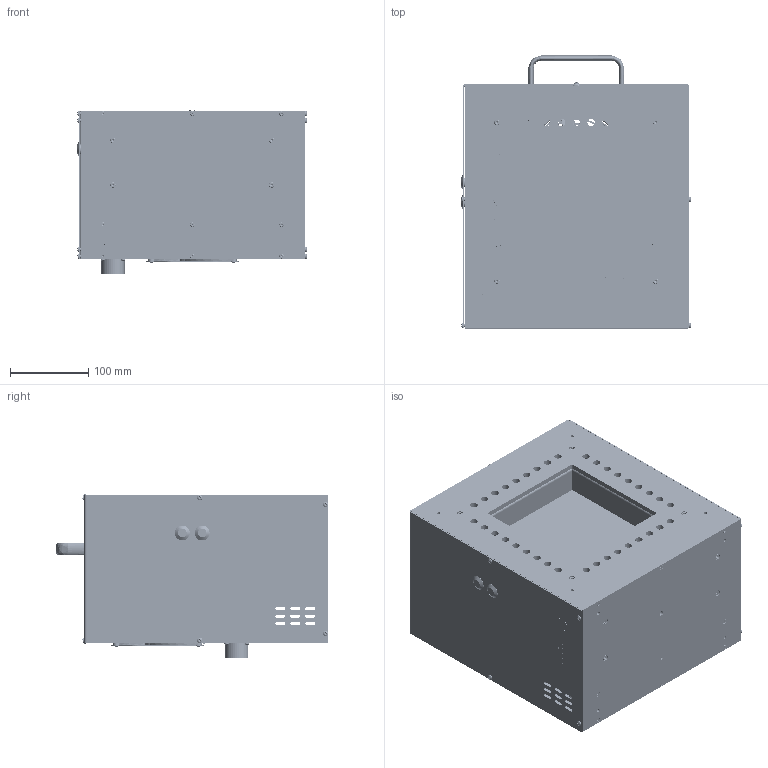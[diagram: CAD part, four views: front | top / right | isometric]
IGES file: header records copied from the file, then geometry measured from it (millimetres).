
Start section: SolidWorks IGES file using analytic representation for surfaces
Global section: file name: X:\ECO_SUB\052324\319-001-329\319-001-329_NC.IGS; native system: SolidWorks 2013; preprocessor: SolidWorks 2013; author: doug; date: 140925.110056; units: inch
Bounding box: 295.06 x 349.42 x 211.1 mm (x, y, z)
Surface area: 1014265 mm2 (no closed solid volume)
Topology: 0 solids, 0 shells, 3745 faces, 44262 edges, 44222 vertices
Faces by surface type: bspline 2736, revolution 1009
